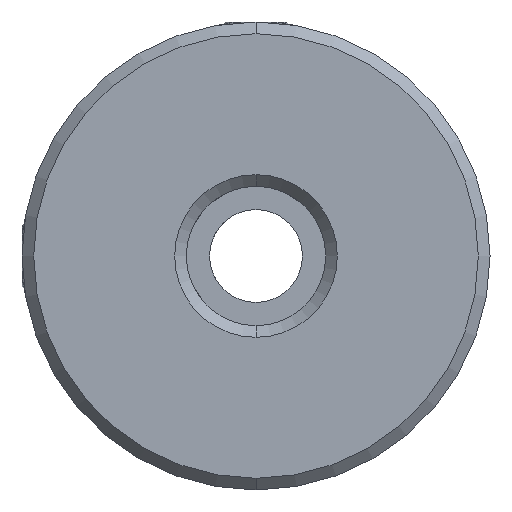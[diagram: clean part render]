
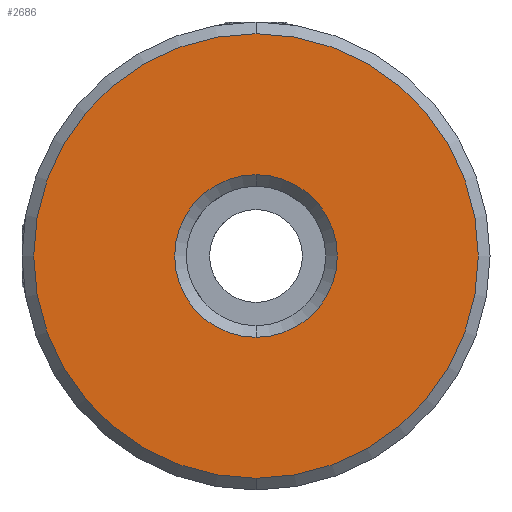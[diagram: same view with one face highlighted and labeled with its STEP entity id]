
A CAD part, front view. The second image highlights one B-rep face of the part: STEP entity #2686.
In plain terms, the highlighted planar face has unit normal (0, -1, 0).
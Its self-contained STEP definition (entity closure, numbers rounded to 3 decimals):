
#14 = EDGE_CURVE ( 'NONE', #1181, #2377, #1477, .T. ) ;
#140 = AXIS2_PLACEMENT_3D ( 'NONE', #1128, #1109, #2289 ) ;
#392 = DIRECTION ( 'NONE',  ( 0., 0., 1. ) ) ;
#411 = DIRECTION ( 'NONE',  ( 0., 1., 0. ) ) ;
#503 = CARTESIAN_POINT ( 'NONE',  ( -10.188, -0.277, -15.154 ) ) ;
#557 = CARTESIAN_POINT ( 'NONE',  ( -10.188, -0.277, 15.246 ) ) ;
#604 = PLANE ( 'NONE',  #3151 ) ;
#623 = DIRECTION ( 'NONE',  ( 0., 0., 1. ) ) ;
#679 = DIRECTION ( 'NONE',  ( 0., -1., 0. ) ) ;
#790 = ORIENTED_EDGE ( 'NONE', *, *, #14, .T. ) ;
#852 = AXIS2_PLACEMENT_3D ( 'NONE', #1025, #411, #1567 ) ;
#916 = EDGE_LOOP ( 'NONE', ( #3452, #2404 ) ) ;
#963 = FACE_OUTER_BOUND ( 'NONE', #916, .T. ) ;
#967 = VERTEX_POINT ( 'NONE', #557 ) ;
#1025 = CARTESIAN_POINT ( 'NONE',  ( -10.188, -0.277, 0.046 ) ) ;
#1048 = EDGE_LOOP ( 'NONE', ( #790, #1269 ) ) ;
#1109 = DIRECTION ( 'NONE',  ( 0., 1., 0. ) ) ;
#1128 = CARTESIAN_POINT ( 'NONE',  ( -10.188, -0.277, 0.046 ) ) ;
#1136 = CIRCLE ( 'NONE', #3254, 15.2 ) ;
#1181 = VERTEX_POINT ( 'NONE', #3744 ) ;
#1192 = FACE_BOUND ( 'NONE', #1048, .T. ) ;
#1269 = ORIENTED_EDGE ( 'NONE', *, *, #2891, .T. ) ;
#1470 = EDGE_CURVE ( 'NONE', #1947, #967, #1136, .T. ) ;
#1477 = CIRCLE ( 'NONE', #140, 5.562 ) ;
#1567 = DIRECTION ( 'NONE',  ( 0., 0., 1. ) ) ;
#1827 = CARTESIAN_POINT ( 'NONE',  ( -10.188, -0.277, 0.046 ) ) ;
#1947 = VERTEX_POINT ( 'NONE', #503 ) ;
#2289 = DIRECTION ( 'NONE',  ( 0., 0., 1. ) ) ;
#2373 = CARTESIAN_POINT ( 'NONE',  ( -10.188, -0.277, 0.046 ) ) ;
#2377 = VERTEX_POINT ( 'NONE', #3521 ) ;
#2404 = ORIENTED_EDGE ( 'NONE', *, *, #1470, .T. ) ;
#2419 = CIRCLE ( 'NONE', #3088, 15.2 ) ;
#2662 = DIRECTION ( 'NONE',  ( 0., 0., 1. ) ) ;
#2686 = ADVANCED_FACE ( 'NONE', ( #963, #1192 ), #604, .F. ) ;
#2758 = EDGE_CURVE ( 'NONE', #967, #1947, #2419, .T. ) ;
#2891 = EDGE_CURVE ( 'NONE', #2377, #1181, #3335, .T. ) ;
#2935 = DIRECTION ( 'NONE',  ( 0., 1., 0. ) ) ;
#2987 = DIRECTION ( 'NONE',  ( 0., -1., 0. ) ) ;
#3088 = AXIS2_PLACEMENT_3D ( 'NONE', #2373, #679, #2662 ) ;
#3151 = AXIS2_PLACEMENT_3D ( 'NONE', #3553, #2935, #623 ) ;
#3254 = AXIS2_PLACEMENT_3D ( 'NONE', #1827, #2987, #392 ) ;
#3335 = CIRCLE ( 'NONE', #852, 5.562 ) ;
#3452 = ORIENTED_EDGE ( 'NONE', *, *, #2758, .T. ) ;
#3521 = CARTESIAN_POINT ( 'NONE',  ( -10.188, -0.277, 5.608 ) ) ;
#3553 = CARTESIAN_POINT ( 'NONE',  ( -10.188, -0.277, 0.046 ) ) ;
#3744 = CARTESIAN_POINT ( 'NONE',  ( -10.188, -0.277, -5.517 ) ) ;
